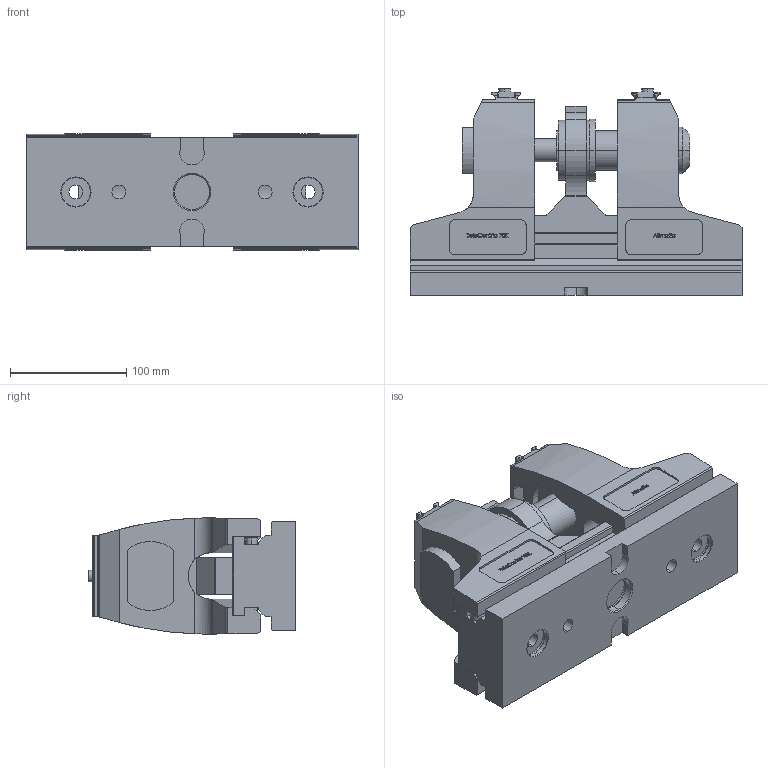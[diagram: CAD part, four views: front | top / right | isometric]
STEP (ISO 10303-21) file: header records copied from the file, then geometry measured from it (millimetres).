
FILE_DESCRIPTION (( 'STEP AP214' ), '1' );
FILE_NAME ('6921548000055.STEP', '2017-09-06T13:15:53', ( '' ), ( '' ), 'SwSTEP 2.0', 'SolidWorks 2016', '' );
FILE_SCHEMA (( 'AUTOMOTIVE_DESIGN' ));
Length unit declared in the file: millimetre
Products named in the file (4): 3D-6921541000000; 3D-6921541002000-K; 6921548000055; 3D-6921541001000-K
Assembly tree (3 placements, depth 2):
  6921548000055
    3D-6921541000000
    3D-6921541001000-K
    3D-6921541002000-K
Bounding box: 286 x 178.3 x 100 mm (x, y, z)
Volume: 2404206 mm3; surface area: 295526.1 mm2
Topology: 3 solids, 3 shells, 979 faces, 2557 edges, 1679 vertices
Faces by surface type: plane 577, bspline 214, cylinder 150, cone 38
Entity records: 41707 total; most frequent: CARTESIAN_POINT 18496, ORIENTED_EDGE 5114, DIRECTION 3906, EDGE_CURVE 2557, VECTOR 1734, LINE 1734, VERTEX_POINT 1679, AXIS2_PLACEMENT_3D 1086
